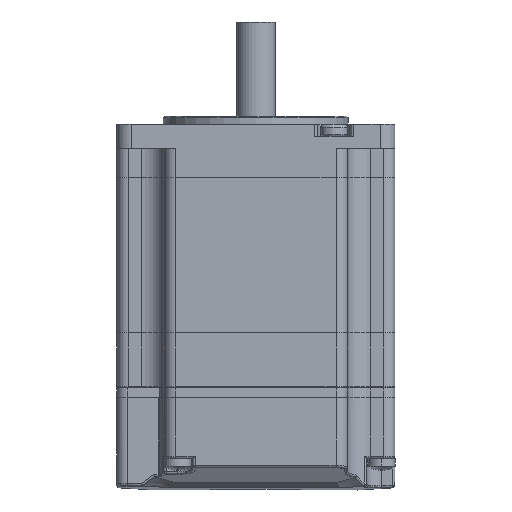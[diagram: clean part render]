
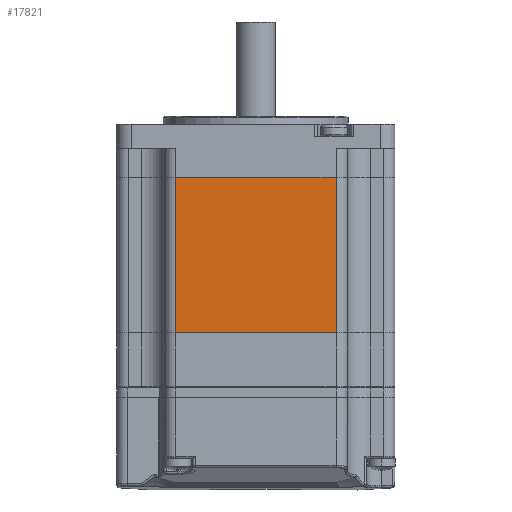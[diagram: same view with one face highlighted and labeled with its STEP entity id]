
A CAD part, front view. The second image highlights one B-rep face of the part: STEP entity #17821.
In plain terms, the highlighted planar face has unit normal (0, -1, 0).
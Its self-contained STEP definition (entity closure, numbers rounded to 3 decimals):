
#9236=DIRECTION('',(0.,0.,1.));
#9237=VECTOR('',#9236,32.);
#9238=CARTESIAN_POINT('',(-16.5,-28.6,-16.));
#9239=LINE('',#9238,#9237);
#9244=DIRECTION('',(-1.,0.,0.));
#9245=VECTOR('',#9244,33.);
#9246=CARTESIAN_POINT('',(16.5,-28.6,16.));
#9247=LINE('',#9246,#9245);
#9252=DIRECTION('',(0.,0.,-1.));
#9253=VECTOR('',#9252,32.);
#9254=CARTESIAN_POINT('',(16.5,-28.6,16.));
#9255=LINE('',#9254,#9253);
#9479=DIRECTION('',(-1.,0.,0.));
#9480=VECTOR('',#9479,33.);
#9481=CARTESIAN_POINT('',(16.5,-28.6,-16.));
#9482=LINE('',#9481,#9480);
#14533=CARTESIAN_POINT('',(16.5,-28.6,16.));
#14535=VERTEX_POINT('',#14533);
#14721=CARTESIAN_POINT('',(16.5,-28.6,-16.));
#14722=CARTESIAN_POINT('',(-16.5,-28.6,-16.));
#14723=VERTEX_POINT('',#14721);
#14724=VERTEX_POINT('',#14722);
#15318=CARTESIAN_POINT('',(-16.5,-28.6,16.));
#15319=VERTEX_POINT('',#15318);
#17808=CARTESIAN_POINT('',(-16.5,-28.6,16.));
#17809=DIRECTION('',(0.,1.,0.));
#17810=DIRECTION('',(0.,0.,1.));
#17811=AXIS2_PLACEMENT_3D('',#17808,#17809,#17810);
#17812=PLANE('',#17811);
#17813=ORIENTED_EDGE('',*,*,#17799,.T.);
#17814=ORIENTED_EDGE('',*,*,#16641,.F.);
#17816=ORIENTED_EDGE('',*,*,#17815,.T.);
#17818=ORIENTED_EDGE('',*,*,#17817,.T.);
#17819=EDGE_LOOP('',(#17813,#17814,#17816,#17818));
#17820=FACE_OUTER_BOUND('',#17819,.F.);
#16641=EDGE_CURVE('',#14535,#15319,#9247,.T.);
#17799=EDGE_CURVE('',#14724,#15319,#9239,.T.);
#17815=EDGE_CURVE('',#14535,#14723,#9255,.T.);
#17817=EDGE_CURVE('',#14723,#14724,#9482,.T.);
#17821=ADVANCED_FACE('',(#17820),#17812,.F.);
